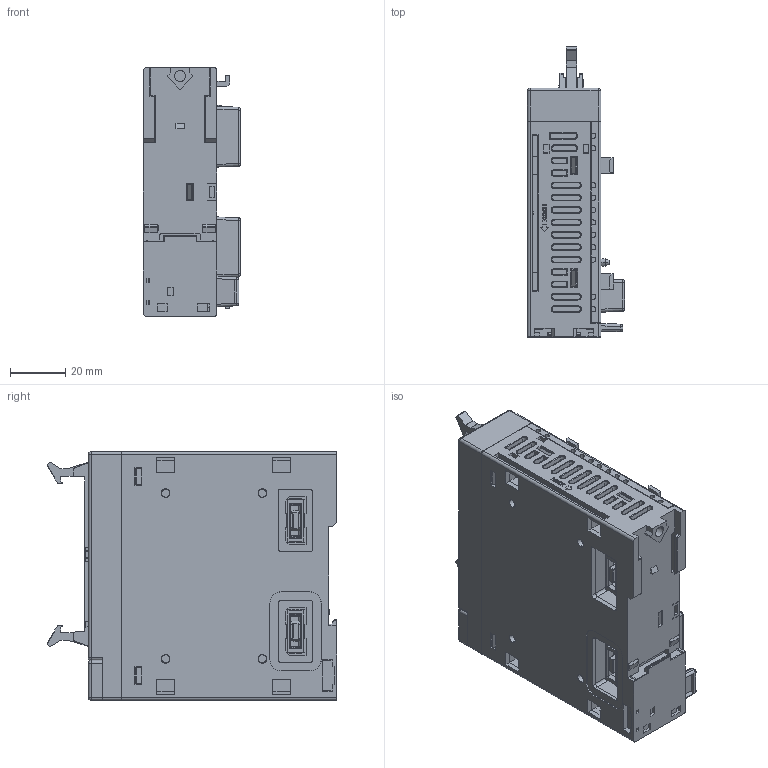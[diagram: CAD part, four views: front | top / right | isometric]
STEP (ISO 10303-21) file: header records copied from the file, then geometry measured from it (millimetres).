
FILE_DESCRIPTION((''),'2;1');
FILE_NAME('XCPU-R40P_ASM','2022-09-18T22:56:02',('Jacky Chang'),(''),'CREO PARAMETRIC BY PTC INC, 2021284','CREO PARAMETRIC BY PTC INC, 2021284','');
FILE_SCHEMA(('CONFIG_CONTROL_DESIGN','SHAPE_APPEARANCE_LAYERS_GROUPS'));
Products named in the file (2): XCPU-R40P-UP-COVER; XCPU-R40P_ASM
Assembly tree (1 placements, depth 2):
  XCPU-R40P_ASM
    XCPU-R40P-UP-COVER
Bounding box: 35.2 x 104.92 x 90.3 mm (x, y, z)
Volume: 201408.6 mm3; surface area: 47111.7 mm2
Topology: 4 solids, 15 shells, 2604 faces, 6829 edges, 4321 vertices
Faces by surface type: plane 1892, cylinder 410, cone 89, extrusion 75, torus 74, sphere 42, bspline 22
Entity records: 110390 total; most frequent: CARTESIAN_POINT 16974, ORIENTED_EDGE 13610, DIRECTION 12388, PRESENTATION_STYLE_ASSIGNMENT 8109, STYLED_ITEM 6824, CURVE_STYLE 6820, EDGE_CURVE 6805, VECTOR 5618
